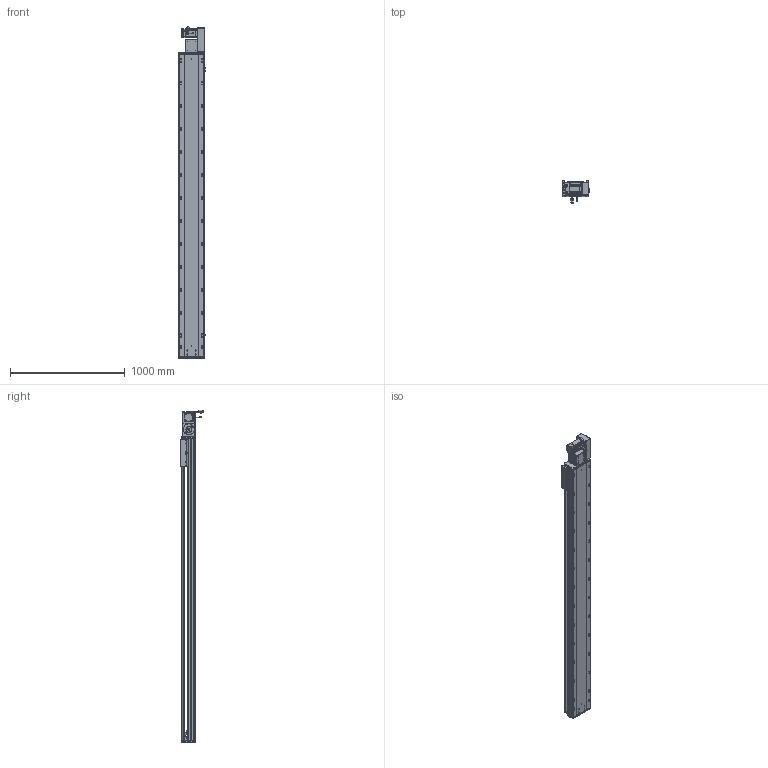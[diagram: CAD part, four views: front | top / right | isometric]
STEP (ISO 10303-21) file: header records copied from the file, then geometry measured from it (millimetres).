
FILE_DESCRIPTION (( 'STEP AP203' ), '1' );
FILE_NAME ('RY220-T-300-RK.SLDASM_2300.step', '2022-07-25T08:24:49', ( '' ), ( '' ), 'SwSTEP 2.0', 'SolidWorks 2016', '' );
FILE_SCHEMA (( 'CONFIG_CONTROL_DESIGN' ));
Length unit declared in the file: millimetre
Products named in the file (14): 怢湛750W_ECMA-CX0807ES; RY220-T-蛌殏萇儂假蚾啣(750W); RY220翋肮祭謫裔啣; RY220-T-湍謫欶(鍼踢); RY220-同步轮副支撑座6304×2; RY220-T菁釱-300_2300; RY220-T-300-RK.SLDASM_2300; RY220-俋离672覜茼んえ; 滅袉蝶18-15; RY220-T-300-奻裔啣_2300; RY220翋肮祭謫釱; 110A-T-肮祭謫釱傷裔; RY220圉猾敕々湍臏賑輸; 覜茼ん672
Assembly tree (18 placements, depth 2):
  RY220-T-300-RK.SLDASM_2300
    RY220-T菁釱-300_2300
    RY220翋肮祭謫釱
    覜茼ん672  x3
    RY220圉猾敕々湍臏賑輸
    RY220-T-300-奻裔啣_2300
    RY220-俋离672覜茼んえ
    滅袉蝶18-15  x3
    RY220翋肮祭謫裔啣  x2
    110A-T-肮祭謫釱傷裔
    怢湛750W_ECMA-CX0807ES
    RY220-T-湍謫欶(鍼踢)
    RY220-T-蛌殏萇儂假蚾啣(750W)
    RY220-同步轮副支撑座6304×2
Bounding box: 238.7 x 198.77 x 2895.24 mm (x, y, z)
Volume: 20671875.5 mm3; surface area: 6322714.6 mm2
Topology: 19 solids, 19 shells, 2890 faces, 7991 edges, 5024 vertices
Faces by surface type: cylinder 1406, plane 1069, cone 333, bspline 56, sphere 16, torus 10
Entity records: 96371 total; most frequent: CARTESIAN_POINT 27289, ORIENTED_EDGE 14298, DIRECTION 13720, EDGE_CURVE 7149, AXIS2_PLACEMENT_3D 4924, VERTEX_POINT 4648, VECTOR 3872, LINE 3872
